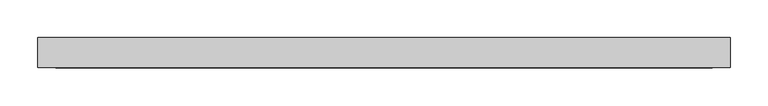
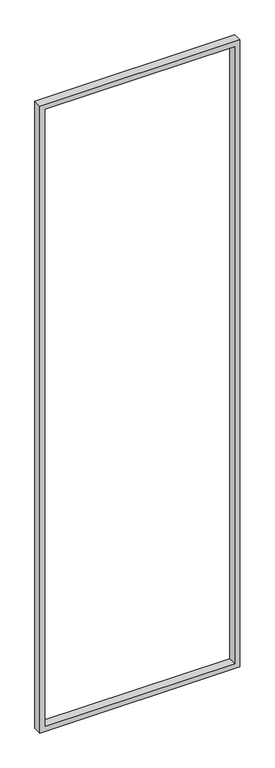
"""IFC4 building model written with IfcOpenShell, lengths in millimetres: plate geometry, Vitré."""

from ifc_helpers import new_model, si_unit, frame, origin, place, context, project, spatial, polyline, outline, extrude, source, transform, mapped, element, save


def plate_563c0253(model_context):
    return source(origin(), model_context, "Body", "SweptSolid", [
        extrude(outline(polyline([(3042.625, -458.8125), (0.0, -458.8125), (0.0, 458.8125), (3042.625, 458.8125), (3042.625, -458.8125)]), holes=[polyline([(3018.8125, 435.0), (23.8125, 435.0), (23.8125, -435.0), (3018.8125, -435.0), (3018.8125, 435.0)])]), frame((0.0, -20.0, 0.0), z_axis=(0.0, 1.0, 0.0), x_axis=(0.0, 0.0, 1.0)), (0.0, 0.0, 1.0), 40.0),
    ])


if __name__ == "__main__":
    model = new_model("IFC4")
    model_context = context("Model", 3, world=origin())
    ifc_project = project(units=[si_unit("LENGTHUNIT", "METRE", prefix="MILLI")], contexts=[model_context])
    site = spatial("IfcSite", under=ifc_project)
    building = spatial("IfcBuilding", under=site)
    placement = place(None, origin())
    plate_shape = plate_563c0253(model_context)
    element("IfcPlate", 1, ObjectType="Vitré", at=placement, inside=building, context=model_context, shape_type="MappedRepresentation", body=[
        mapped(plate_shape, transform((0.0, 0.0, 0.0), x_axis=(1.0, 0.0, 0.0), y_axis=(0.0, 1.0, 0.0), z_axis=(0.0, 0.0, 1.0))),
    ])
    save(model, "model.ifc")
